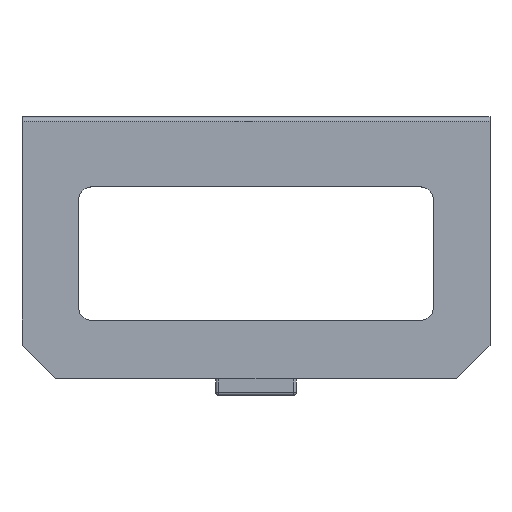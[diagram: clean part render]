
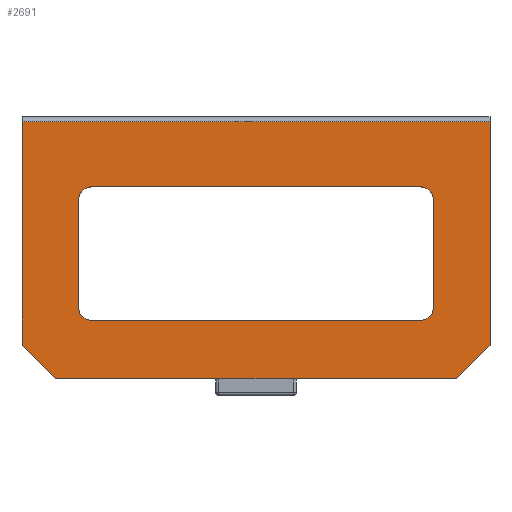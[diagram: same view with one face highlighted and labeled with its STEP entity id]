
A CAD part, front view. The second image highlights one B-rep face of the part: STEP entity #2691.
In plain terms, the highlighted planar face has unit normal (0, -1, 0).
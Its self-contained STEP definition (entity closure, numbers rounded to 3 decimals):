
#984=CARTESIAN_POINT('',(141.4,-28.25,46.4));
#985=DIRECTION('',(0.,1.,0.));
#986=DIRECTION('',(0.,0.,1.));
#987=AXIS2_PLACEMENT_3D('',#984,#985,#986);
#1021=CARTESIAN_POINT('',(-141.4,-28.25,46.4));
#1022=DIRECTION('',(0.,1.,0.));
#1023=DIRECTION('',(-1.,0.,0.));
#1024=AXIS2_PLACEMENT_3D('',#1021,#1022,#1023);
#1058=CARTESIAN_POINT('',(-141.4,-28.25,-46.4));
#1059=DIRECTION('',(0.,1.,0.));
#1060=DIRECTION('',(0.,0.,-1.));
#1061=AXIS2_PLACEMENT_3D('',#1058,#1059,#1060);
#1095=CARTESIAN_POINT('',(141.4,-28.25,-46.4));
#1096=DIRECTION('',(0.,1.,0.));
#1097=DIRECTION('',(1.,0.,0.));
#1098=AXIS2_PLACEMENT_3D('',#1095,#1096,#1097);
#1103=DIRECTION('',(-1.,0.,0.));
#1104=VECTOR('',#1103,402.);
#1105=CARTESIAN_POINT('',(201.,-28.25,113.5));
#1106=LINE('',#1105,#1104);
#1110=DIRECTION('',(0.,0.,1.));
#1111=VECTOR('',#1110,192.);
#1112=CARTESIAN_POINT('',(201.,-28.25,-78.5));
#1113=LINE('',#1112,#1111);
#1117=DIRECTION('',(0.707,0.,0.707));
#1118=VECTOR('',#1117,41.012);
#1119=CARTESIAN_POINT('',(172.,-28.25,-107.5));
#1120=LINE('',#1119,#1118);
#1124=DIRECTION('',(1.,0.,0.));
#1125=VECTOR('',#1124,344.);
#1126=CARTESIAN_POINT('',(-172.,-28.25,-107.5));
#1127=LINE('',#1126,#1125);
#1131=DIRECTION('',(0.707,0.,-0.707));
#1132=VECTOR('',#1131,41.012);
#1133=CARTESIAN_POINT('',(-201.,-28.25,-78.5));
#1134=LINE('',#1133,#1132);
#1138=DIRECTION('',(0.,0.,-1.));
#1139=VECTOR('',#1138,192.);
#1140=CARTESIAN_POINT('',(-201.,-28.25,113.5));
#1141=LINE('',#1140,#1139);
#1145=DIRECTION('',(0.,0.,1.));
#1146=VECTOR('',#1145,92.8);
#1147=CARTESIAN_POINT('',(-152.361,-28.25,-46.4));
#1148=LINE('',#1147,#1146);
#1152=DIRECTION('',(-1.,0.,0.));
#1153=VECTOR('',#1152,282.8);
#1154=CARTESIAN_POINT('',(141.4,-28.25,-57.361));
#1155=LINE('',#1154,#1153);
#1159=DIRECTION('',(0.,0.,-1.));
#1160=VECTOR('',#1159,92.8);
#1161=CARTESIAN_POINT('',(152.361,-28.25,46.4));
#1162=LINE('',#1161,#1160);
#1166=DIRECTION('',(1.,0.,0.));
#1167=VECTOR('',#1166,282.8);
#1168=CARTESIAN_POINT('',(-141.4,-28.25,57.361));
#1169=LINE('',#1168,#1167);
#1558=CARTESIAN_POINT('',(-201.,-28.25,-78.5));
#1559=CARTESIAN_POINT('',(-172.,-28.25,-107.5));
#1560=VERTEX_POINT('',#1558);
#1561=VERTEX_POINT('',#1559);
#1562=CARTESIAN_POINT('',(172.,-28.25,-107.5));
#1563=VERTEX_POINT('',#1562);
#1564=CARTESIAN_POINT('',(201.,-28.25,-78.5));
#1565=VERTEX_POINT('',#1564);
#1622=CARTESIAN_POINT('',(-201.,-28.25,113.5));
#1624=VERTEX_POINT('',#1622);
#1628=CARTESIAN_POINT('',(201.,-28.25,113.5));
#1629=VERTEX_POINT('',#1628);
#1650=CARTESIAN_POINT('',(-152.361,-28.25,-46.4));
#1651=CARTESIAN_POINT('',(-152.361,-28.25,46.4));
#1652=VERTEX_POINT('',#1650);
#1653=VERTEX_POINT('',#1651);
#1654=CARTESIAN_POINT('',(-141.4,-28.25,57.361));
#1655=CARTESIAN_POINT('',(141.4,-28.25,57.361));
#1656=VERTEX_POINT('',#1654);
#1657=VERTEX_POINT('',#1655);
#1658=CARTESIAN_POINT('',(152.361,-28.25,46.4));
#1659=CARTESIAN_POINT('',(152.361,-28.25,-46.4));
#1660=VERTEX_POINT('',#1658);
#1661=VERTEX_POINT('',#1659);
#1662=CARTESIAN_POINT('',(141.4,-28.25,-57.361));
#1663=CARTESIAN_POINT('',(-141.4,-28.25,-57.361));
#1664=VERTEX_POINT('',#1662);
#1665=VERTEX_POINT('',#1663);
#2663=CARTESIAN_POINT('',(0.,-28.25,0.));
#2664=DIRECTION('',(0.,-1.,0.));
#2665=DIRECTION('',(-1.,0.,0.));
#2666=AXIS2_PLACEMENT_3D('',#2663,#2664,#2665);
#2667=PLANE('',#2666);
#2669=ORIENTED_EDGE('',*,*,#2668,.F.);
#2671=ORIENTED_EDGE('',*,*,#2670,.F.);
#2673=ORIENTED_EDGE('',*,*,#2672,.F.);
#2674=ORIENTED_EDGE('',*,*,#2035,.F.);
#2676=ORIENTED_EDGE('',*,*,#2675,.F.);
#2678=ORIENTED_EDGE('',*,*,#2677,.F.);
#2679=EDGE_LOOP('',(#2669,#2671,#2673,#2674,#2676,#2678));
#2680=FACE_OUTER_BOUND('',#2679,.F.);
#2681=ORIENTED_EDGE('',*,*,#2616,.F.);
#2682=ORIENTED_EDGE('',*,*,#2630,.F.);
#2683=ORIENTED_EDGE('',*,*,#2644,.F.);
#2684=ORIENTED_EDGE('',*,*,#2657,.F.);
#2685=ORIENTED_EDGE('',*,*,#2559,.F.);
#2686=ORIENTED_EDGE('',*,*,#2574,.F.);
#2687=ORIENTED_EDGE('',*,*,#2588,.F.);
#2688=ORIENTED_EDGE('',*,*,#2602,.F.);
#2689=EDGE_LOOP('',(#2681,#2682,#2683,#2684,#2685,#2686,#2687,#2688));
#2690=FACE_BOUND('',#2689,.F.);
#988=CIRCLE('',#987,10.961);
#1025=CIRCLE('',#1024,10.961);
#1062=CIRCLE('',#1061,10.961);
#1099=CIRCLE('',#1098,10.961);
#2035=EDGE_CURVE('',#1561,#1563,#1127,.T.);
#2559=EDGE_CURVE('',#1660,#1661,#1162,.T.);
#2574=EDGE_CURVE('',#1657,#1660,#988,.T.);
#2588=EDGE_CURVE('',#1656,#1657,#1169,.T.);
#2602=EDGE_CURVE('',#1653,#1656,#1025,.T.);
#2616=EDGE_CURVE('',#1652,#1653,#1148,.T.);
#2630=EDGE_CURVE('',#1665,#1652,#1062,.T.);
#2644=EDGE_CURVE('',#1664,#1665,#1155,.T.);
#2657=EDGE_CURVE('',#1661,#1664,#1099,.T.);
#2668=EDGE_CURVE('',#1629,#1624,#1106,.T.);
#2670=EDGE_CURVE('',#1565,#1629,#1113,.T.);
#2672=EDGE_CURVE('',#1563,#1565,#1120,.T.);
#2675=EDGE_CURVE('',#1560,#1561,#1134,.T.);
#2677=EDGE_CURVE('',#1624,#1560,#1141,.T.);
#2691=ADVANCED_FACE('',(#2680,#2690),#2667,.T.);
